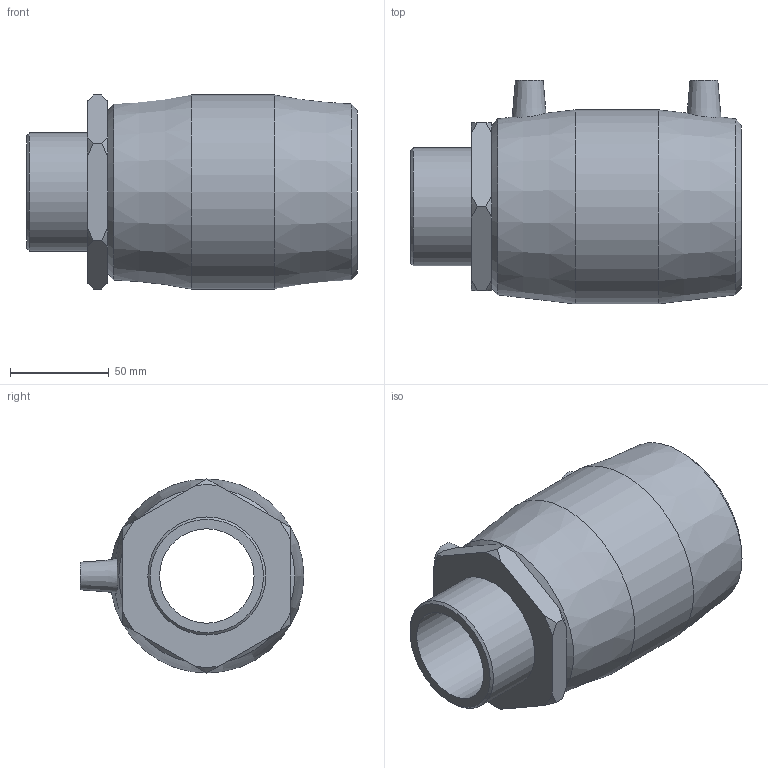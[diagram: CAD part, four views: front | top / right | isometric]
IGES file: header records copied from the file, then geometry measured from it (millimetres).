
Global section: file name: 492104075020.ipt; native system: Autodesk Inventor 2015; preprocessor: unknown; author: KIM; date: 20200202.122325; units: millimetre
Bounding box: 167 x 113 x 98 mm (x, y, z)
Volume: 513674.1 mm3; surface area: 97933.7 mm2
Topology: 1 solids, 2 shells, 54 faces, 129 edges, 88 vertices
Faces by surface type: plane 21, cone 19, revolution 8, cylinder 6
Full cylindrical faces by diameter (mm): 4 x2, 59.614 x1, 75 x2, 98 x1
